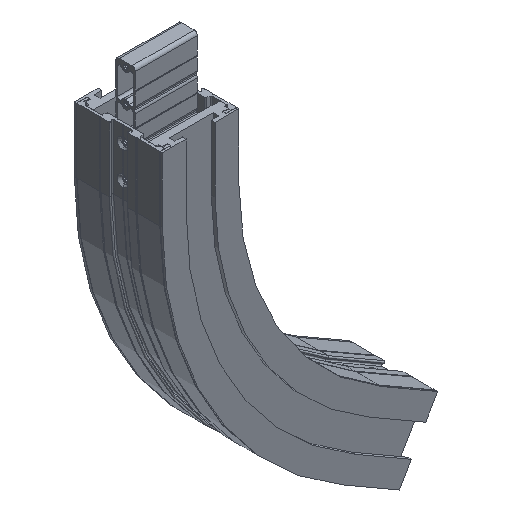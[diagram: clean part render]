
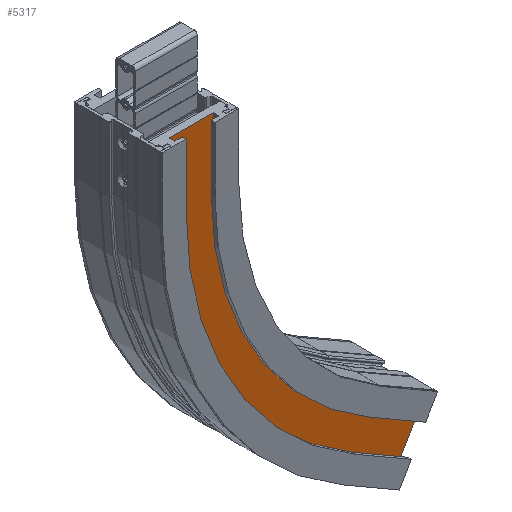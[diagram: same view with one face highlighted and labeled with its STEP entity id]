
A CAD part, isometric view. The second image highlights one B-rep face of the part: STEP entity #5317.
In plain terms, the highlighted planar face has unit normal (0, -1, 0).
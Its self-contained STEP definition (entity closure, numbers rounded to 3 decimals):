
#1660 = AXIS2_PLACEMENT_3D ( 'NONE', #3036, #3037, #3038 ) ;
#1993 = AXIS2_PLACEMENT_3D ( 'NONE', #15636, #15637, #15638 ) ;
#2065 = EDGE_CURVE ( 'NONE', #2174, #2179, #9461, .T. ) ;
#2144 = VERTEX_POINT ( 'NONE', #11567 ) ;
#2147 = VERTEX_POINT ( 'NONE', #11564 ) ;
#2162 = VERTEX_POINT ( 'NONE', #11549 ) ;
#2167 = VERTEX_POINT ( 'NONE', #11544 ) ;
#2174 = VERTEX_POINT ( 'NONE', #11537 ) ;
#2179 = VERTEX_POINT ( 'NONE', #5258 ) ;
#2259 = VERTEX_POINT ( 'NONE', #5024 ) ;
#2261 = VERTEX_POINT ( 'NONE', #5020 ) ;
#3036 = CARTESIAN_POINT ( 'NONE',  ( 364.906, -43.722, 195.035 ) ) ;
#3037 = DIRECTION ( 'NONE',  ( 0., 1., 0. ) ) ;
#3038 = DIRECTION ( 'NONE',  ( -0.866, 0., 0.5 ) ) ;
#4251 = EDGE_LOOP ( 'NONE', ( #10071, #10072, #10073, #10074, #10075, #10076, #10077, #10078 ) ) ;
#4496 = CIRCLE ( 'NONE', #1660, 534. ) ;
#4825 = DIRECTION ( 'NONE',  ( -0.5, 0., -0.866 ) ) ;
#4826 = DIRECTION ( 'NONE',  ( 0., -1., 0. ) ) ;
#4827 = CARTESIAN_POINT ( 'NONE',  ( 131.906, -43.722, -208.533 ) ) ;
#4829 = PLANE ( 'NONE',  #11364 ) ;
#5020 = CARTESIAN_POINT ( 'NONE',  ( 184.509, -43.722, -317.422 ) ) ;
#5024 = CARTESIAN_POINT ( 'NONE',  ( 218.509, -43.722, -258.533 ) ) ;
#5258 = CARTESIAN_POINT ( 'NONE',  ( -101.094, -43.722, 295.035 ) ) ;
#5317 = ADVANCED_FACE ( 'NONE', ( #9356 ), #4829, .T. ) ;
#7414 = EDGE_CURVE ( 'NONE', #2144, #2147, #4496, .T. ) ;
#9356 = FACE_OUTER_BOUND ( 'NONE', #4251, .T. ) ;
#9460 = VECTOR ( 'NONE', #11618, 1000. ) ;
#9461 = LINE ( 'NONE', #11619, #9460 ) ;
#10071 = ORIENTED_EDGE ( 'NONE', *, *, #11251, .F. ) ;
#10072 = ORIENTED_EDGE ( 'NONE', *, *, #11252, .F. ) ;
#10073 = ORIENTED_EDGE ( 'NONE', *, *, #14494, .T. ) ;
#10074 = ORIENTED_EDGE ( 'NONE', *, *, #2065, .T. ) ;
#10075 = ORIENTED_EDGE ( 'NONE', *, *, #11250, .T. ) ;
#10076 = ORIENTED_EDGE ( 'NONE', *, *, #15111, .F. ) ;
#10077 = ORIENTED_EDGE ( 'NONE', *, *, #7414, .F. ) ;
#10078 = ORIENTED_EDGE ( 'NONE', *, *, #11249, .T. ) ;
#10698 = CARTESIAN_POINT ( 'NONE',  ( 97.906, -43.722, -267.422 ) ) ;
#10699 = DIRECTION ( 'NONE',  ( 0.866, 0., -0.5 ) ) ;
#10700 = CARTESIAN_POINT ( 'NONE',  ( -101.094, -43.722, 295.035 ) ) ;
#10701 = DIRECTION ( 'NONE',  ( -1., 0., 0. ) ) ;
#10702 = CARTESIAN_POINT ( 'NONE',  ( 218.509, -43.722, -258.533 ) ) ;
#10703 = DIRECTION ( 'NONE',  ( -0.5, 0., -0.866 ) ) ;
#10704 = CARTESIAN_POINT ( 'NONE',  ( 131.906, -43.722, -208.533 ) ) ;
#10705 = DIRECTION ( 'NONE',  ( 0.866, 0., -0.5 ) ) ;
#11249 = EDGE_CURVE ( 'NONE', #2144, #2261, #13112, .T. ) ;
#11250 = EDGE_CURVE ( 'NONE', #2179, #2162, #13114, .T. ) ;
#11251 = EDGE_CURVE ( 'NONE', #2259, #2261, #13116, .T. ) ;
#11252 = EDGE_CURVE ( 'NONE', #2167, #2259, #13118, .T. ) ;
#11364 = AXIS2_PLACEMENT_3D ( 'NONE', #4827, #4826, #4825 ) ;
#11537 = CARTESIAN_POINT ( 'NONE',  ( -101.094, -43.722, 195.035 ) ) ;
#11544 = CARTESIAN_POINT ( 'NONE',  ( 131.906, -43.722, -208.533 ) ) ;
#11549 = CARTESIAN_POINT ( 'NONE',  ( -169.094, -43.722, 295.035 ) ) ;
#11564 = CARTESIAN_POINT ( 'NONE',  ( -169.094, -43.722, 195.035 ) ) ;
#11567 = CARTESIAN_POINT ( 'NONE',  ( 97.906, -43.722, -267.422 ) ) ;
#11618 = DIRECTION ( 'NONE',  ( 0., 0., 1. ) ) ;
#11619 = CARTESIAN_POINT ( 'NONE',  ( -101.094, -43.722, 195.035 ) ) ;
#13112 = LINE ( 'NONE', #10698, #13113 ) ;
#13113 = VECTOR ( 'NONE', #10699, 1000. ) ;
#13114 = LINE ( 'NONE', #10700, #13115 ) ;
#13115 = VECTOR ( 'NONE', #10701, 1000. ) ;
#13116 = LINE ( 'NONE', #10702, #13117 ) ;
#13117 = VECTOR ( 'NONE', #10703, 1000. ) ;
#13118 = LINE ( 'NONE', #10704, #13119 ) ;
#13119 = VECTOR ( 'NONE', #10705, 1000. ) ;
#13192 = CIRCLE ( 'NONE', #1993, 466. ) ;
#13246 = LINE ( 'NONE', #15766, #13247 ) ;
#13247 = VECTOR ( 'NONE', #15767, 1000. ) ;
#14494 = EDGE_CURVE ( 'NONE', #2167, #2174, #13192, .T. ) ;
#15111 = EDGE_CURVE ( 'NONE', #2147, #2162, #13246, .T. ) ;
#15636 = CARTESIAN_POINT ( 'NONE',  ( 364.906, -43.722, 195.035 ) ) ;
#15637 = DIRECTION ( 'NONE',  ( 0., 1., 0. ) ) ;
#15638 = DIRECTION ( 'NONE',  ( -0.866, 0., 0.5 ) ) ;
#15766 = CARTESIAN_POINT ( 'NONE',  ( -169.094, -43.722, 195.035 ) ) ;
#15767 = DIRECTION ( 'NONE',  ( 0., 0., 1. ) ) ;
